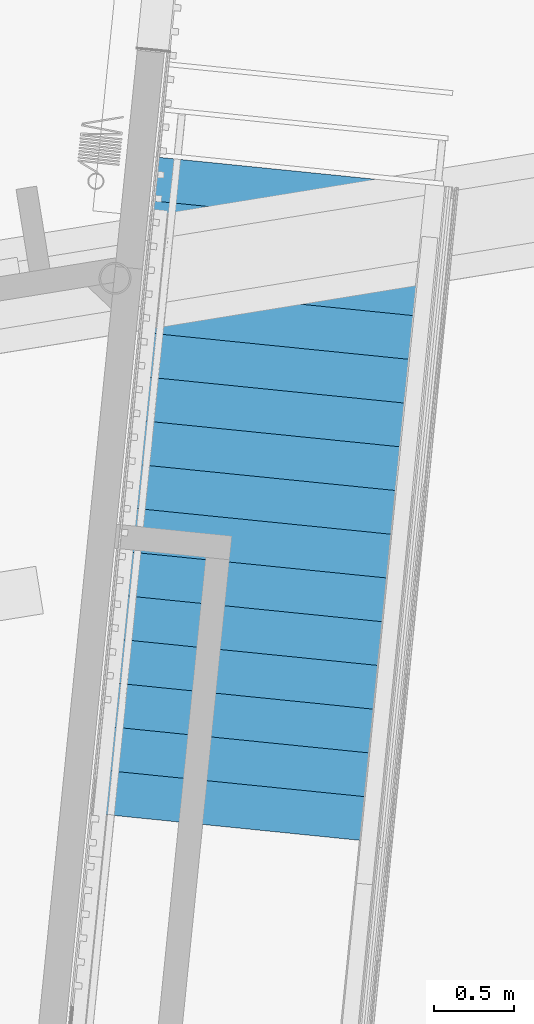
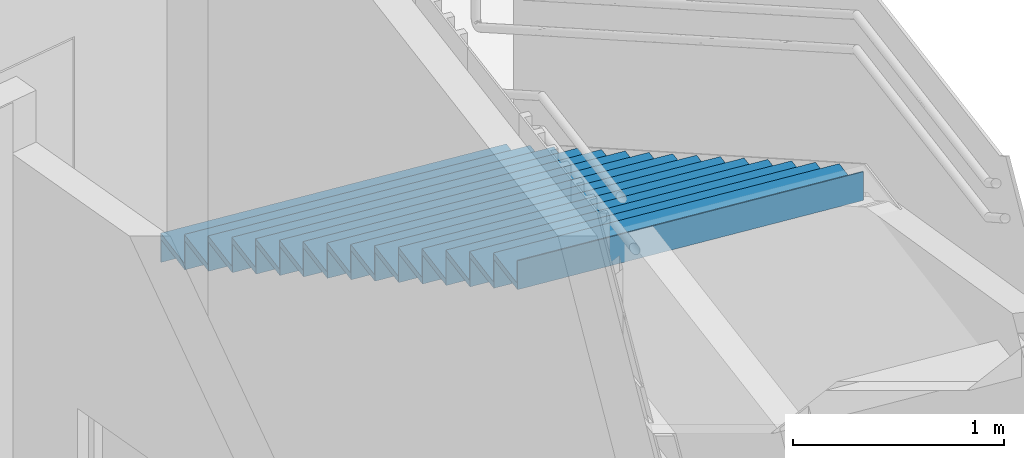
# One storey, part 13 of 23: 1 stair flight, 1 element without a shape of its own.
"""IFC2X3 building model written with IfcOpenShell, lengths in millimetres."""

from ifc_helpers import new_model, entity, si_unit, converted_unit, derived_unit, direction, frame, frame_2d, origin, origin_with_axes, origin_2d_with_axis, place, context, subcontext, project, spatial, rectangle, extrude, material, material_list, type_object, element, aggregate, save


model = new_model("IFC2X3")

# Units and contexts
plan_context = context("Plan", 3, precision=1e-05, world=origin_with_axes())
model_context = context("Model", 3, precision=0.01, world=origin(), true_north=direction((6.12323399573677e-17, 1.0)))
body_context = subcontext(model_context, "Body", "Model", "MODEL_VIEW")
ifc_project = project(units=[converted_unit("PLANEANGLEUNIT", "DEGREE", entity("IfcPositiveLengthMeasure", 0.0174532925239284), si_unit("PLANEANGLEUNIT", "RADIAN"), dimensions=[0, 0, 0, 0, 0, 0, 0]), si_unit("AREAUNIT", "SQUARE_METRE"), si_unit("LENGTHUNIT", "METRE", prefix="MILLI"), si_unit("MASSUNIT", "GRAM", prefix="KILO"), si_unit("POWERUNIT", "WATT"), si_unit("PRESSUREUNIT", "PASCAL", prefix="KILO"), si_unit("FORCEUNIT", "NEWTON", prefix="KILO"), si_unit("ELECTRICVOLTAGEUNIT", "VOLT"), si_unit("ELECTRICCURRENTUNIT", "AMPERE"), si_unit("THERMODYNAMICTEMPERATUREUNIT", "DEGREE_CELSIUS"), si_unit("TIMEUNIT", "SECOND"), si_unit("VOLUMEUNIT", "CUBIC_METRE"), derived_unit("LINEARVELOCITYUNIT", [(si_unit("LENGTHUNIT", "METRE"), 1), (si_unit("TIMEUNIT", "SECOND"), -1)]), derived_unit("VOLUMETRICFLOWRATEUNIT", [(si_unit("VOLUMEUNIT", "CUBIC_METRE"), 1), (si_unit("TIMEUNIT", "SECOND"), -1)]), derived_unit("THERMALTRANSMITTANCEUNIT", [(si_unit("POWERUNIT", "WATT"), 1), (si_unit("THERMODYNAMICTEMPERATUREUNIT", "KELVIN"), -1), (si_unit("AREAUNIT", "SQUARE_METRE"), -1)]), derived_unit("SOUNDPRESSUREUNIT", [(si_unit("PRESSUREUNIT", "PASCAL"), 1)])], contexts=[model_context, plan_context])

# Site, building, storey
site_placement = place(None, frame((-0.00071070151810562, 0.00438415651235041, 0.0), z_axis=(0.0, 0.0, 1.0), x_axis=(-0.160236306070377, 0.987078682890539, 0.0)))
site = spatial("IfcSite", under=ifc_project, at=site_placement, Name="Default", CompositionType="ELEMENT")
building_placement = place(site_placement, origin_with_axes())
building = spatial("IfcBuilding", under=site, at=building_placement, Name="TOO", CompositionType="ELEMENT")
storey_placement = place(building_placement, frame((0.0, 0.0, 58999.9999999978), z_axis=(0.0, 0.0, 1.0), x_axis=(1.0, 0.0, 0.0)))
storey = spatial("IfcBuildingStorey", under=building, at=storey_placement, Name="Nivå F", CompositionType="ELEMENT", Elevation=58999.9999999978)

# Stair, stair flight
stair_placement = place(storey_placement, origin_with_axes())
stair = element("IfcStair", 1, at=stair_placement, inside=storey, Name="Assembled Stair:Stair", ObjectType="Assembled Stair:A280 - S01", ShapeType="NOTDEFINED")
ifc_material_1 = material(Name="A255 - Gummi")
ifc_material_2 = material(Name="<Unnamed>")
ifc_material_list = material_list([ifc_material_1, ifc_material_2])
stair_flight_type = type_object("IfcStairFlightType", Name="Non-Monolithic Run:Trapper med gummi belegg", PredefinedType="STRAIGHT")
stair_flight_placement = place(stair_placement, origin_with_axes())
stair_flight = element("IfcStairFlight", 2, at=stair_flight_placement, type_object=stair_flight_type, material=ifc_material_list, Name="Assembled Stair:Stair:14128751 Run 1", ObjectType="Non-Monolithic Run:Trapper med gummi belegg", NumberOfRiser=16, NumberOfTreads=15, RiserHeight=0.549184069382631, TreadLength=0.902230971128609, context=body_context, shape_type="SweptSolid", body=[
    extrude(rectangle(XDim=274.999999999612, YDim=1799.99999999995, at=frame_2d((2.76742184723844e-10, 3.83124643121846e-11), x_axis=(1.0, 0.0))), frame((771217.417376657, -507722.188512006, 132.391304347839), z_axis=(0.0, 0.0, 1.0), x_axis=(0.965925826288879, -0.258819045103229, 0.0)), (0.0, 0.0, 1.0), 35.0000000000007),
    extrude(rectangle(XDim=1800.00000000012, YDim=5.0000000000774, at=frame_2d((-5.14432940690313e-11, 5.79671866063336e-11), x_axis=(1.0, 0.0))), frame((771347.817363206, -507757.129083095, 0.0), z_axis=(0.0, 0.0, 1.0), x_axis=(-0.258819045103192, -0.965925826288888, 0.0)), (0.0, 0.0, 1.0), 132.391304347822),
    extrude(rectangle(XDim=275.000000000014, YDim=1800.00000000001, at=frame_2d((-6.6975758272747e-11, -1.79625203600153e-11), x_axis=(1.0, 0.0))), frame((770951.787774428, -507651.013274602, 299.78260869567), z_axis=(0.0, 0.0, 1.0), x_axis=(0.96592582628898, -0.258819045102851, 0.0)), (0.0, 0.0, 1.0), 35.0000000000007),
    extrude(rectangle(XDim=1800.00000000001, YDim=5.0000000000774, at=origin_2d_with_axis()), frame((771082.187760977, -507685.953845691, 132.391304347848), z_axis=(0.0, 0.0, 1.0), x_axis=(-0.258819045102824, -0.965925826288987, 0.0)), (0.0, 0.0, 1.0), 167.391304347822),
    extrude(rectangle(XDim=275.000000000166, YDim=1800.00000000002, at=frame_2d((-1.42847511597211e-10, -2.44426701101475e-12), x_axis=(1.0, 0.0))), frame((770686.158172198, -507579.838037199, 467.173913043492), z_axis=(0.0, 0.0, 1.0), x_axis=(0.965925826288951, -0.25881904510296, 0.0)), (0.0, 0.0, 1.0), 35.0000000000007),
    extrude(rectangle(XDim=1800.00000000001, YDim=5.0000000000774, at=origin_2d_with_axis()), frame((770816.558158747, -507614.778608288, 299.78260869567), z_axis=(0.0, 0.0, 1.0), x_axis=(-0.258819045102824, -0.965925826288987, 0.0)), (0.0, 0.0, 1.0), 167.391304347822),
    extrude(rectangle(XDim=274.999999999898, YDim=1799.99999999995, at=frame_2d((1.42875933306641e-10, 2.38742359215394e-12), x_axis=(1.0, 0.0))), frame((770420.528569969, -507508.662799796, 634.565217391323), z_axis=(0.0, 0.0, 1.0), x_axis=(0.965925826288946, -0.258819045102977, 0.0)), (0.0, 0.0, 1.0), 35.0000000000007),
    extrude(rectangle(XDim=1800.00000000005, YDim=5.00000000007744, at=frame_2d((-5.13864506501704e-11, 5.79671866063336e-11), x_axis=(1.0, 0.0))), frame((770550.928556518, -507543.603370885, 467.173913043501), z_axis=(0.0, 0.0, 1.0), x_axis=(-0.258819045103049, -0.965925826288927, 0.0)), (0.0, 0.0, 1.0), 167.391304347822),
    extrude(rectangle(XDim=274.99999999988, YDim=1800.00000000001, at=frame_2d((2.69011479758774e-11, -1.00442321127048e-10), x_axis=(1.0, 0.0))), frame((770154.898967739, -507437.487562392, 801.956521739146), z_axis=(0.0, 0.0, 1.0), x_axis=(0.965925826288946, -0.258819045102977, 0.0)), (0.0, 0.0, 1.0), 35.0000000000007),
    extrude(rectangle(XDim=1799.99999999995, YDim=5.0000000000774, at=origin_2d_with_axis()), frame((770285.298954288, -507472.428133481, 634.565217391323), z_axis=(0.0, 0.0, 1.0), x_axis=(-0.258819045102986, -0.965925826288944, 0.0)), (0.0, 0.0, 1.0), 167.391304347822),
    extrude(rectangle(XDim=274.99999999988, YDim=1800.00000000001, at=frame_2d((1.79340986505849e-11, -6.6904703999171e-11), x_axis=(1.0, 0.0))), frame((769889.26936551, -507366.312324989, 969.347826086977), z_axis=(0.0, 0.0, 1.0), x_axis=(0.965925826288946, -0.258819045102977, 0.0)), (0.0, 0.0, 1.0), 35.0000000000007),
    extrude(rectangle(XDim=1800.00000000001, YDim=5.0000000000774, at=origin_2d_with_axis()), frame((770019.669352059, -507401.252896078, 801.956521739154), z_axis=(0.0, 0.0, 1.0), x_axis=(-0.258819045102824, -0.965925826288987, 0.0)), (0.0, 0.0, 1.0), 167.391304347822),
    extrude(rectangle(XDim=275.000000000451, YDim=1799.99999999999, at=frame_2d((-1.33866251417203e-10, -3.59250407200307e-11), x_axis=(1.0, 0.0))), frame((769623.63976328, -507295.137087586, 1136.7391304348), z_axis=(0.0, 0.0, 1.0), x_axis=(0.965925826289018, -0.258819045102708, 0.0)), (0.0, 0.0, 1.0), 35.0000000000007),
    extrude(rectangle(XDim=1800.00000000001, YDim=5.0000000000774, at=origin_2d_with_axis()), frame((769754.039749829, -507330.077658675, 969.347826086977), z_axis=(0.0, 0.0, 1.0), x_axis=(-0.258819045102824, -0.965925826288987, 0.0)), (0.0, 0.0, 1.0), 167.391304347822),
    extrude(rectangle(XDim=274.999999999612, YDim=1799.99999999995, at=frame_2d((2.76742184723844e-10, 3.83124643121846e-11), x_axis=(1.0, 0.0))), frame((769358.010161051, -507223.961850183, 1304.13043478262), z_axis=(0.0, 0.0, 1.0), x_axis=(0.965925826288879, -0.258819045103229, 0.0)), (0.0, 0.0, 1.0), 35.0000000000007),
    extrude(rectangle(XDim=1800.00000000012, YDim=5.0000000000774, at=frame_2d((-5.14432940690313e-11, 5.79671866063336e-11), x_axis=(1.0, 0.0))), frame((769488.4101476, -507258.902421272, 1136.7391304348), z_axis=(0.0, 0.0, 1.0), x_axis=(-0.258819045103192, -0.965925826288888, 0.0)), (0.0, 0.0, 1.0), 167.391304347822),
    extrude(rectangle(XDim=275.000000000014, YDim=1800.00000000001, at=frame_2d((6.6975758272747e-11, 1.79625203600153e-11), x_axis=(1.0, 0.0))), frame((769092.380558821, -507152.786612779, 1471.52173913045), z_axis=(0.0, 0.0, 1.0), x_axis=(0.96592582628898, -0.258819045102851, 0.0)), (0.0, 0.0, 1.0), 35.0000000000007),
    extrude(rectangle(XDim=1800.00000000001, YDim=5.0000000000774, at=origin_2d_with_axis()), frame((769222.78054537, -507187.727183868, 1304.13043478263), z_axis=(0.0, 0.0, 1.0), x_axis=(-0.258819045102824, -0.965925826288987, 0.0)), (0.0, 0.0, 1.0), 167.391304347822),
    extrude(rectangle(XDim=275.000000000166, YDim=1800.00000000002, at=frame_2d((-1.42847511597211e-10, -2.44426701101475e-12), x_axis=(1.0, 0.0))), frame((768826.750956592, -507081.611375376, 1638.91304347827), z_axis=(0.0, 0.0, 1.0), x_axis=(0.965925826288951, -0.25881904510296, 0.0)), (0.0, 0.0, 1.0), 35.0000000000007),
    extrude(rectangle(XDim=1800.00000000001, YDim=5.0000000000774, at=origin_2d_with_axis()), frame((768957.150943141, -507116.551946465, 1471.52173913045), z_axis=(0.0, 0.0, 1.0), x_axis=(-0.258819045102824, -0.965925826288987, 0.0)), (0.0, 0.0, 1.0), 167.391304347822),
    extrude(rectangle(XDim=274.999999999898, YDim=1799.99999999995, at=frame_2d((1.42875933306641e-10, 2.38742359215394e-12), x_axis=(1.0, 0.0))), frame((768561.121354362, -507010.436137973, 1806.30434782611), z_axis=(0.0, 0.0, 1.0), x_axis=(0.965925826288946, -0.258819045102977, 0.0)), (0.0, 0.0, 1.0), 35.0000000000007),
    extrude(rectangle(XDim=1800.00000000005, YDim=5.0000000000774, at=frame_2d((-1.55182533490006e-11, -7.59021734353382e-11), x_axis=(1.0, 0.0))), frame((768691.521340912, -507045.376709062, 1638.91304347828), z_axis=(0.0, 0.0, 1.0), x_axis=(-0.258819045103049, -0.965925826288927, 0.0)), (0.0, 0.0, 1.0), 167.391304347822),
    extrude(rectangle(XDim=274.99999999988, YDim=1800.00000000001, at=frame_2d((1.6076739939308e-10, -6.45172804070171e-11), x_axis=(1.0, 0.0))), frame((768295.491752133, -506939.260900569, 1973.69565217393), z_axis=(0.0, 0.0, 1.0), x_axis=(0.965925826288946, -0.258819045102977, 0.0)), (0.0, 0.0, 1.0), 35.0000000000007),
    extrude(rectangle(XDim=1799.99999999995, YDim=5.0000000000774, at=origin_2d_with_axis()), frame((768425.891738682, -506974.201471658, 1806.30434782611), z_axis=(0.0, 0.0, 1.0), x_axis=(-0.258819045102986, -0.965925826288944, 0.0)), (0.0, 0.0, 1.0), 167.391304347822),
    extrude(rectangle(XDim=275.000000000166, YDim=1800.00000000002, at=frame_2d((-1.24927623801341e-10, -6.94058144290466e-11), x_axis=(1.0, 0.0))), frame((768029.862149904, -506868.085663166, 2141.08695652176), z_axis=(0.0, 0.0, 1.0), x_axis=(0.965925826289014, -0.258819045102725, 0.0)), (0.0, 0.0, 1.0), 35.0000000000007),
    extrude(rectangle(XDim=1800.00000000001, YDim=5.0000000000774, at=origin_2d_with_axis()), frame((768160.262136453, -506903.026234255, 1973.69565217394), z_axis=(0.0, 0.0, 1.0), x_axis=(-0.258819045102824, -0.965925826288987, 0.0)), (0.0, 0.0, 1.0), 167.391304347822),
    extrude(rectangle(XDim=274.999999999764, YDim=1799.99999999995, at=frame_2d((2.18733475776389e-10, -1.31308297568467e-11), x_axis=(1.0, 0.0))), frame((767764.232547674, -506796.910425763, 2308.47826086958), z_axis=(0.0, 0.0, 1.0), x_axis=(0.965925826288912, -0.258819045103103, 0.0)), (0.0, 0.0, 1.0), 35.0000000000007),
    extrude(rectangle(XDim=1800.00000000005, YDim=5.0000000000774, at=frame_2d((5.13864506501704e-11, -5.79671866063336e-11), x_axis=(1.0, 0.0))), frame((767894.632534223, -506831.850996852, 2141.08695652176), z_axis=(0.0, 0.0, 1.0), x_axis=(-0.258819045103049, -0.965925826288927, 0.0)), (0.0, 0.0, 1.0), 167.391304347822),
    extrude(rectangle(XDim=275.000000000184, YDim=1799.99999999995, at=frame_2d((-2.69153588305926e-11, 1.00442321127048e-10), x_axis=(1.0, 0.0))), frame((767498.602945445, -506725.735188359, 2475.86956521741), z_axis=(0.0, 0.0, 1.0), x_axis=(0.965925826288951, -0.25881904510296, 0.0)), (0.0, 0.0, 1.0), 35.0000000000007),
    extrude(rectangle(XDim=1800.00000000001, YDim=5.0000000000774, at=origin_2d_with_axis()), frame((767629.002931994, -506760.675759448, 2308.47826086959), z_axis=(0.0, 0.0, 1.0), x_axis=(-0.258819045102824, -0.965925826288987, 0.0)), (0.0, 0.0, 1.0), 167.391304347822),
    extrude(rectangle(XDim=1799.99999999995, YDim=5.0000000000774, at=origin_2d_with_axis()), frame((767363.373329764, -506689.500522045, 2475.86956521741), z_axis=(0.0, 0.0, 1.0), x_axis=(-0.258819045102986, -0.965925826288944, 0.0)), (0.0, 0.0, 1.0), 167.391304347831),
])
aggregate(stair, [stair_flight])

save(model, "model.ifc")
